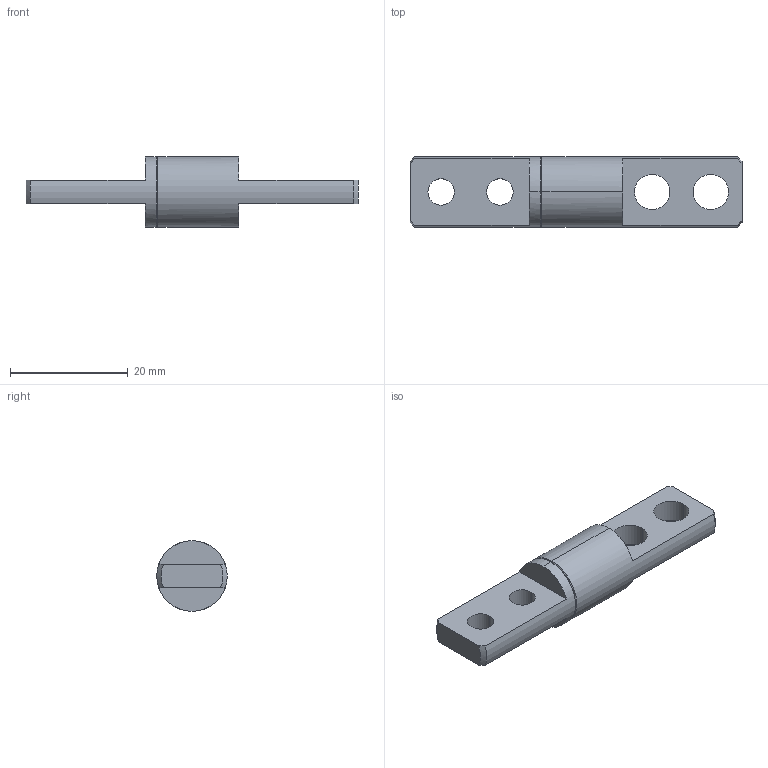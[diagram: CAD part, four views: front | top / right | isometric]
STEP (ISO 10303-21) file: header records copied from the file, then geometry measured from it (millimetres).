
FILE_DESCRIPTION (( 'STEP AP203' ), '1' );
FILE_NAME ('XG11-076-5.STEP', '2025-07-04T06:20:13', ( '微软用户' ), ( '微软中国' ), 'SwSTEP 2.0', 'SolidWorks 2024', '' );
FILE_SCHEMA (( 'CONFIG_CONTROL_DESIGN' ));
Length unit declared in the file: millimetre
Products named in the file (1): XG11-076-5
Bounding box: 56.5 x 12 x 12 mm (x, y, z)
Volume: 3351 mm3; surface area: 2159.2 mm2
Topology: 1 solids, 1 shells, 30 faces, 78 edges, 50 vertices
Faces by surface type: cylinder 12, plane 10, torus 4, cone 4
Entity records: 1037 total; most frequent: CARTESIAN_POINT 183, DIRECTION 174, ORIENTED_EDGE 156, EDGE_CURVE 78, AXIS2_PLACEMENT_3D 73, VERTEX_POINT 50, CIRCLE 42, EDGE_LOOP 38
